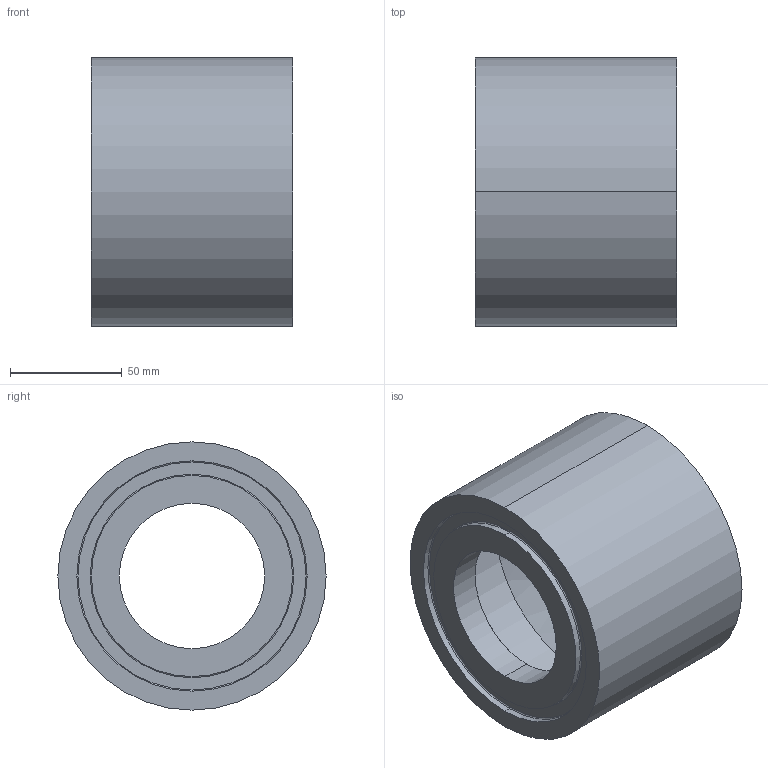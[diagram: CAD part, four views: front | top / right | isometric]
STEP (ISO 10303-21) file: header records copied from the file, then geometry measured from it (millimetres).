
FILE_DESCRIPTION (( 'STEP AP214' ), '1' );
FILE_NAME ('RVZ3139xD17A5A05500_DN 65_DIN-RR-Nut_PS40.STEP', '2009-11-10T13:37:14', ( 'Eckhard Grams' ), ( 'AWP Kälte Klima Armaturen GmbH' ), 'SwSTEP 2.0', 'SolidWorks 2002296', '' );
FILE_SCHEMA (( 'AUTOMOTIVE_DESIGN' ));
Length unit declared in the file: millimetre
Products named in the file (2): RVZ3139xD17A5A05500_DN 65_DIN-RR-Nut_PS40; Geh 31391K17-5034xx4_DN65_PS63_Geh 31391K17-5034554 RR-Nut
Assembly tree (1 placements, depth 2):
  RVZ3139xD17A5A05500_DN 65_DIN-RR-Nut_PS40
    Geh 31391K17-5034xx4_DN65_PS63_Geh 31391K17-5034554 RR-Nut
Bounding box: 90 x 120 x 120 mm (x, y, z)
Volume: 407350.3 mm3; surface area: 84522.1 mm2
Topology: 1 solids, 1 shells, 51 faces, 102 edges, 62 vertices
Faces by surface type: cylinder 26, torus 12, plane 11, cone 2
Entity records: 1427 total; most frequent: DIRECTION 286, CARTESIAN_POINT 219, ORIENTED_EDGE 204, AXIS2_PLACEMENT_3D 129, EDGE_CURVE 102, CIRCLE 74, VERTEX_POINT 62, EDGE_LOOP 62
